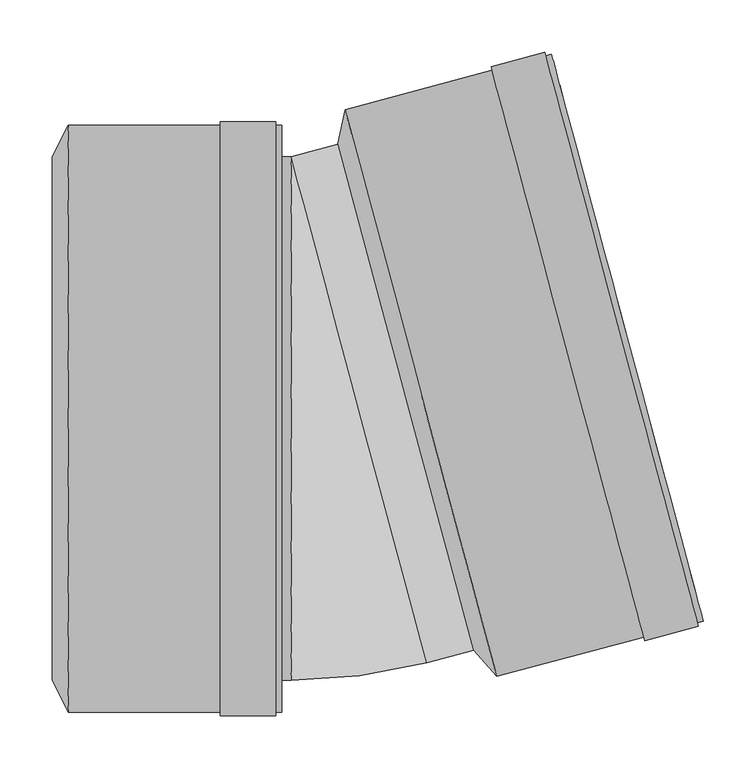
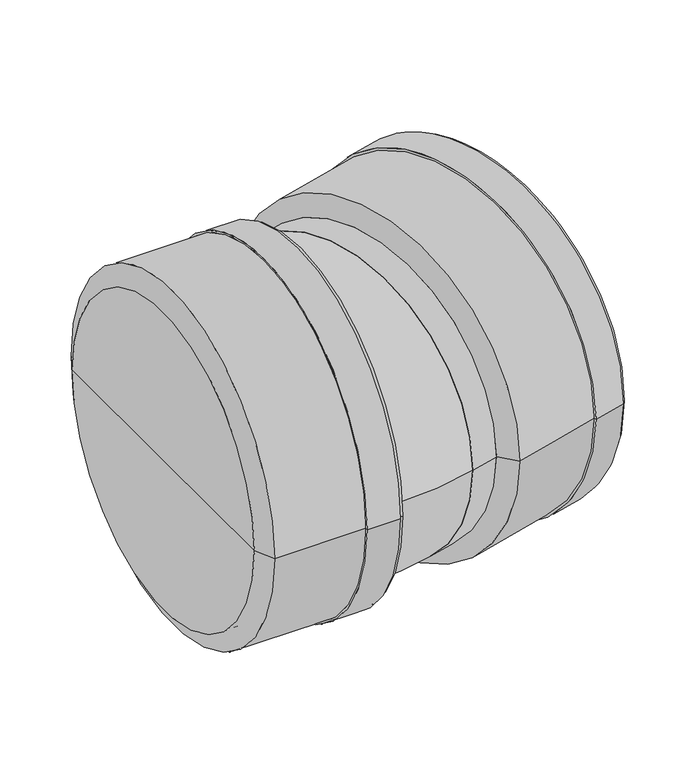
"""IFC4 building model written with IfcOpenShell, lengths in millimetres: pipe fitting geometry, pf_KGB : pf_KGB."""

from ifc_helpers import new_model, si_unit, point, frame, origin, origin_2d, place, context, project, spatial, polyline, circle_curve, ellipse_curve, trimmed, segment, composite_curve, outline, extrude, source, transform, mapped, element, save
from ifc_brep_helpers import plane_surface, cylinder_surface, revolved_surface, advanced_brep


def pipe_fitting_9fab9375(model_context):
    return source(origin(), model_context, "Body", "SolidModel", [
        advanced_brep(
        [(141.2060867, -220.9829882, 0.0), (11.7965642, 261.9799249, 0.0), (18.5915909, 294.9624599, 0.0), (163.58202, -246.149188, 0.0), (76.5013254, 20.4984684, 0.0), (360.5342959, -193.3759847, 0.0), (215.5438669, 347.7356632, 0.0), (223.3343201, 318.6612958, 0.0), (352.7438427, -164.3016173, 0.0), (209.9414971, 346.2345127, 0.0), (354.9319261, -194.8771352, 0.0), (209.0615123, 349.5186605, 0.0), (355.8119109, -198.161283, 0.0), (157.9640361, 335.8271331, 0.0), (304.7144347, -211.8528105, 0.0), (158.8440209, 332.5429852, 0.0), (303.8344499, -208.5686626, 0.0), (155.7915667, -217.0748206, 0.0), (26.3820441, 265.8880925, 0.0), (91.0868054, 24.406636, 0.0)],
        [
            (0, 1, circle_curve(frame((76.5013254, 20.4984684, 0.0), z_axis=(0.9659258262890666, 0.25881904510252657, 0.0), x_axis=(-0.2588190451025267, 0.9659258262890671, 0.0)), 250.0)),
            (1, 2),
            (2, 3, circle_curve(frame((91.0868054, 24.406636, 0.0), z_axis=(-0.9659258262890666, -0.25881904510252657, 0.0), x_axis=(-0.2588190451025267, 0.9659258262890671, 0.0)), 280.1)),
            (3, 0),
            (1, 0, circle_curve(frame((76.5013254, 20.4984684, 0.0), z_axis=(0.9659258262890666, 0.25881904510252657, 0.0), x_axis=(-0.2588190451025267, 0.9659258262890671, 0.0)), 250.0)),
            (3, 2, circle_curve(frame((91.0868054, 24.406636, 0.0), z_axis=(-0.9659258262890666, -0.25881904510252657, 0.0), x_axis=(-0.2588190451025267, 0.9659258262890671, 0.0)), 280.1)),
            (4, 1),
            (0, 4),
            (5, 6, circle_curve(frame((288.0390814, 77.1798392, 0.0), z_axis=(0.9659258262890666, 0.25881904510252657, 0.0), x_axis=(-0.2588190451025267, 0.9659258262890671, 0.0)), 280.1)),
            (6, 7),
            (7, 8, circle_curve(frame((288.0390814, 77.1798392, 0.0), z_axis=(-0.9659258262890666, -0.25881904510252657, 0.0), x_axis=(-0.2588190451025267, 0.9659258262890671, 0.0)), 250.0)),
            (8, 5),
            (9, 10, circle_curve(frame((282.4367116, 75.6786888, 0.0), z_axis=(0.9659258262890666, 0.25881904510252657, 0.0), x_axis=(-0.2588190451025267, 0.9659258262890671, 0.0)), 280.1)),
            (10, 5),
            (5, 6, circle_curve(frame((288.0390814, 77.1798392, 0.0), z_axis=(-0.9659258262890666, -0.25881904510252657, 0.0), x_axis=(-0.2588190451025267, 0.9659258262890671, 0.0)), 280.1)),
            (6, 9),
            (11, 12, circle_curve(frame((282.4367116, 75.6786888, 0.0), z_axis=(0.9659258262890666, 0.25881904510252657, 0.0), x_axis=(-0.2588190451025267, 0.9659258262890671, 0.0)), 283.5)),
            (12, 10),
            (9, 11),
            (13, 14, circle_curve(frame((231.3392354, 61.9871613, 0.0), z_axis=(0.9659258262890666, 0.25881904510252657, 0.0), x_axis=(-0.2588190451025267, 0.9659258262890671, 0.0)), 283.5)),
            (14, 12),
            (11, 13),
            (15, 16, circle_curve(frame((231.3392354, 61.9871613, 0.0), z_axis=(0.9659258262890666, 0.25881904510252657, 0.0), x_axis=(-0.2588190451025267, 0.9659258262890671, 0.0)), 280.1)),
            (16, 14),
            (13, 15),
            (8, 7, circle_curve(frame((288.0390814, 77.1798392, 0.0), z_axis=(-0.9659258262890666, -0.25881904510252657, 0.0), x_axis=(-0.2588190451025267, 0.9659258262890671, 0.0)), 250.0)),
            (10, 9, circle_curve(frame((282.4367116, 75.6786888, 0.0), z_axis=(0.9659258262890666, 0.25881904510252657, 0.0), x_axis=(-0.2588190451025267, 0.9659258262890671, 0.0)), 280.1)),
            (12, 11, circle_curve(frame((282.4367116, 75.6786888, 0.0), z_axis=(0.9659258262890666, 0.25881904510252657, 0.0), x_axis=(-0.2588190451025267, 0.9659258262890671, 0.0)), 283.5)),
            (14, 13, circle_curve(frame((231.3392354, 61.9871613, 0.0), z_axis=(0.9659258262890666, 0.25881904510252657, 0.0), x_axis=(-0.2588190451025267, 0.9659258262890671, 0.0)), 283.5)),
            (16, 15, circle_curve(frame((231.3392354, 61.9871613, 0.0), z_axis=(0.9659258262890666, 0.25881904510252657, 0.0), x_axis=(-0.2588190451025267, 0.9659258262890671, 0.0)), 280.1)),
            (2, 15),
            (16, 3),
            (17, 18, circle_curve(frame((91.0868054, 24.406636, 0.0), z_axis=(0.9659258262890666, 0.25881904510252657, 0.0), x_axis=(-0.2588190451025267, 0.9659258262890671, 0.0)), 250.0)),
            (18, 19),
            (19, 17),
            (18, 17, circle_curve(frame((91.0868054, 24.406636, 0.0), z_axis=(0.9659258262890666, 0.25881904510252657, 0.0), x_axis=(-0.2588190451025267, 0.9659258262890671, 0.0)), 250.0)),
            (7, 18),
            (17, 8),
        ],
        [
            revolved_surface(polyline([(18.5915909, 294.9624599, 0.0), (11.7965642, 261.9799249, 0.0)]), (76.5013254, 20.4984684, 0.0), (-0.9659258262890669, -0.2588190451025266, 0.0)),
            plane_surface(frame((76.5013254, 20.4984684, 0.0), z_axis=(-0.9659258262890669, -0.2588190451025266, 0.0), x_axis=(-0.2588190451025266, 0.9659258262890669, 0.0))),
            plane_surface(frame((288.0390814, 77.1798392, 0.0), z_axis=(0.9659258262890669, 0.2588190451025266, 0.0), x_axis=(-0.2588190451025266, 0.9659258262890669, 0.0))),
            cylinder_surface(frame((76.5013254, 20.4984684, 0.0), z_axis=(-0.9659258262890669, -0.2588190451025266, 0.0), x_axis=(-0.2588190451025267, 0.9659258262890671, 0.0)), 280.1),
            plane_surface(frame((282.4367116, 75.6786888, 0.0), z_axis=(0.9659258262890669, 0.2588190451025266, 0.0), x_axis=(-0.2588190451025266, 0.9659258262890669, 0.0))),
            cylinder_surface(frame((76.5013254, 20.4984684, 0.0), z_axis=(-0.9659258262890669, -0.2588190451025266, 0.0), x_axis=(-0.2588190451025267, 0.9659258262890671, 0.0)), 283.5),
            plane_surface(frame((231.3392354, 61.9871613, 0.0), z_axis=(-0.9659258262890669, -0.2588190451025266, 0.0), x_axis=(-0.2588190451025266, 0.9659258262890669, 0.0))),
            plane_surface(frame((91.0868054, 24.406636, 0.0), z_axis=(0.9659258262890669, 0.2588190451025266, 0.0), x_axis=(-0.2588190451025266, 0.9659258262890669, 0.0))),
            revolved_surface(polyline([(26.38204408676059, 265.8880925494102, 0.0), (223.33432014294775, 318.66129586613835, 0.0)]), (76.5013254, 20.4984684, 0.0), (-0.9659258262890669, -0.2588190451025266, 0.0)),
        ],
        [
            (0, [[1, 2, 3, 4]]),
            (0, [[5, -4, 6, -2]]),
            (1, [[7, -1, 8]]),
            (1, [[-8, -5, -7]]),
            (2, [[9, 10, 11, 12]]),
            (3, [[13, 14, 15, 16]]),
            (4, [[17, 18, -13, 19]]),
            (5, [[20, 21, -17, 22]]),
            (6, [[23, 24, -20, 25]]),
            (2, [[-15, -12, 26, -10]]),
            (3, [[27, -16, -9, -14]]),
            (4, [[28, -19, -27, -18]]),
            (5, [[29, -22, -28, -21]]),
            (6, [[30, -25, -29, -24]]),
            (3, [[-3, 31, -30, 32]]),
            (3, [[-6, -32, -23, -31]]),
            (7, [[33, 34, 35]]),
            (7, [[36, -35, -34]]),
            (8, [[-11, 37, -33, 38]]),
            (8, [[-26, -38, -36, -37]]),
        ],
    ),
        advanced_brep(
        [(-260.8, -250.0, 0.0), (-260.8, 250.0, 0.0), (-245.7, 280.1, 0.0), (-245.7, -280.1, 0.0), (-260.8, 0.0, 0.0), (-41.8, -280.1, 0.0), (-41.8, 280.1, 0.0), (-41.8, 250.0, 0.0), (-41.8, -250.0, 0.0), (-47.6, 280.1, 0.0), (-47.6, -280.1, 0.0), (-47.6, 283.5, 0.0), (-47.6, -283.5, 0.0), (-100.5, 283.5, 0.0), (-100.5, -283.5, 0.0), (-100.5, 280.1, 0.0), (-100.5, -280.1, 0.0), (-245.7, -250.0, 0.0), (-245.7, 250.0, 0.0), (-245.7, 0.0, 0.0)],
        [
            (0, 1, circle_curve(frame((-260.8, 0.0, 0.0), z_axis=(1.0, 0.0, 0.0), x_axis=(0.0, 1.0, 0.0)), 250.0)),
            (1, 2),
            (2, 3, circle_curve(frame((-245.7, 0.0, 0.0), z_axis=(-1.0, 0.0, 0.0), x_axis=(0.0, 1.0, 0.0)), 280.1)),
            (3, 0),
            (1, 0, circle_curve(frame((-260.8, 0.0, 0.0), z_axis=(1.0, 0.0, 0.0), x_axis=(0.0, 1.0, 0.0)), 250.0)),
            (3, 2, circle_curve(frame((-245.7, 0.0, 0.0), z_axis=(-1.0, 0.0, 0.0), x_axis=(0.0, 1.0, 0.0)), 280.1)),
            (4, 1),
            (0, 4),
            (5, 6, circle_curve(frame((-41.8, 0.0, 0.0), z_axis=(1.0, 0.0, 0.0), x_axis=(0.0, 1.0, 0.0)), 280.1)),
            (6, 7),
            (7, 8, circle_curve(frame((-41.8, 0.0, 0.0), z_axis=(-1.0, 0.0, 0.0), x_axis=(0.0, 1.0, 0.0)), 250.0)),
            (8, 5),
            (9, 10, circle_curve(frame((-47.6, 0.0, 0.0), z_axis=(1.0, 0.0, 0.0), x_axis=(0.0, 1.0, 0.0)), 280.1)),
            (10, 5),
            (5, 6, circle_curve(frame((-41.8, 0.0, 0.0), z_axis=(-1.0, 0.0, 0.0), x_axis=(0.0, 1.0, 0.0)), 280.1)),
            (6, 9),
            (11, 12, circle_curve(frame((-47.6, 0.0, 0.0), z_axis=(1.0, 0.0, 0.0), x_axis=(0.0, 1.0, 0.0)), 283.5)),
            (12, 10),
            (9, 11),
            (13, 14, circle_curve(frame((-100.5, 0.0, 0.0), z_axis=(1.0, 0.0, 0.0), x_axis=(0.0, 1.0, 0.0)), 283.5)),
            (14, 12),
            (11, 13),
            (15, 16, circle_curve(frame((-100.5, 0.0, 0.0), z_axis=(1.0, 0.0, 0.0), x_axis=(0.0, 1.0, 0.0)), 280.1)),
            (16, 14),
            (13, 15),
            (8, 7, circle_curve(frame((-41.8, 0.0, 0.0), z_axis=(-1.0, 0.0, 0.0), x_axis=(0.0, 1.0, 0.0)), 250.0)),
            (10, 9, circle_curve(frame((-47.6, 0.0, 0.0), z_axis=(1.0, 0.0, 0.0), x_axis=(0.0, 1.0, 0.0)), 280.1)),
            (12, 11, circle_curve(frame((-47.6, 0.0, 0.0), z_axis=(1.0, 0.0, 0.0), x_axis=(0.0, 1.0, 0.0)), 283.5)),
            (14, 13, circle_curve(frame((-100.5, 0.0, 0.0), z_axis=(1.0, 0.0, 0.0), x_axis=(0.0, 1.0, 0.0)), 283.5)),
            (16, 15, circle_curve(frame((-100.5, 0.0, 0.0), z_axis=(1.0, 0.0, 0.0), x_axis=(0.0, 1.0, 0.0)), 280.1)),
            (2, 15),
            (16, 3),
            (17, 18, circle_curve(frame((-245.7, 0.0, 0.0), z_axis=(1.0, 0.0, 0.0), x_axis=(0.0, 1.0, 0.0)), 250.0)),
            (18, 19),
            (19, 17),
            (18, 17, circle_curve(frame((-245.7, 0.0, 0.0), z_axis=(1.0, 0.0, 0.0), x_axis=(0.0, 1.0, 0.0)), 250.0)),
            (7, 18),
            (17, 8),
        ],
        [
            revolved_surface(polyline([(-245.7, 280.1, 0.0), (-260.8, 250.0, 0.0)]), (-260.8, 0.0, 0.0), (-1.0, 0.0, 0.0)),
            plane_surface(frame((-260.8, 0.0, 0.0), z_axis=(-1.0, 0.0, 0.0), x_axis=(0.0, 1.0, 0.0))),
            plane_surface(frame((-41.8, 0.0, 0.0), z_axis=(1.0, 0.0, 0.0), x_axis=(0.0, 1.0, 0.0))),
            cylinder_surface(frame((-260.8, 0.0, 0.0), z_axis=(-1.0, 0.0, 0.0), x_axis=(0.0, 1.0, 0.0)), 280.1),
            plane_surface(frame((-47.6, 0.0, 0.0), z_axis=(1.0, 0.0, 0.0), x_axis=(0.0, 1.0, 0.0))),
            cylinder_surface(frame((-260.8, 0.0, 0.0), z_axis=(-1.0, 0.0, 0.0), x_axis=(0.0, 1.0, 0.0)), 283.5),
            plane_surface(frame((-100.5, 0.0, 0.0), z_axis=(-1.0, 0.0, 0.0), x_axis=(0.0, 1.0, 0.0))),
            plane_surface(frame((-245.7, 0.0, 0.0), z_axis=(1.0, 0.0, 0.0), x_axis=(0.0, 1.0, 0.0))),
            revolved_surface(polyline([(-245.7, 250.0, 0.0), (-41.80000000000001, 250.0, 0.0)]), (-260.8, 0.0, 0.0), (-1.0, 0.0, 0.0)),
        ],
        [
            (0, [[1, 2, 3, 4]]),
            (0, [[5, -4, 6, -2]]),
            (1, [[7, -1, 8]]),
            (1, [[-8, -5, -7]]),
            (2, [[9, 10, 11, 12]]),
            (3, [[13, 14, 15, 16]]),
            (4, [[17, 18, -13, 19]]),
            (5, [[20, 21, -17, 22]]),
            (6, [[23, 24, -20, 25]]),
            (2, [[-15, -12, 26, -10]]),
            (3, [[27, -16, -9, -14]]),
            (4, [[28, -19, -27, -18]]),
            (5, [[29, -22, -28, -21]]),
            (6, [[30, -25, -29, -24]]),
            (3, [[-3, 31, -30, 32]]),
            (3, [[-6, -32, -23, -31]]),
            (7, [[33, 34, 35]]),
            (7, [[36, -35, -34]]),
            (8, [[-11, 37, -33, 38]]),
            (8, [[-26, -38, -36, -37]]),
        ],
    ),
        extrude(outline(composite_curve([segment(trimmed(circle_curve(origin_2d(), 250.0), [point((0.0, -250.0))], [point((0.0, 249.9999999))], False, "CARTESIAN"), True, "CONTINUOUS"), segment(trimmed(circle_curve(origin_2d(), 250.0), [point((0.0, 249.9999999))], [point((0.0, -250.0))], False, "CARTESIAN"), True, "CONTINUOUS")], self_intersect=False)), frame((31.7916369, 8.5185434, 0.0), z_axis=(0.9659258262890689, 0.2588190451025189, 0.0), x_axis=(0.0, 0.0, 1.0)), (0.0, 0.0, 1.0), 46.2868756),
        extrude(outline(composite_curve([segment(trimmed(circle_curve(origin_2d(), 250.0), [point((-250.0, 0.0))], [point((250.0, 0.0))], False, "CARTESIAN"), True, "CONTINUOUS"), segment(trimmed(circle_curve(origin_2d(), 250.0), [point((250.0, 0.0))], [point((-250.0, 0.0))], False, "CARTESIAN"), True, "CONTINUOUS")], self_intersect=False)), frame((-245.7, 0.0, 0.0), z_axis=(1.0, 0.0, 0.0), x_axis=(0.0, 1.0, 0.0)), (0.0, 0.0, 1.0), 212.7868756),
        advanced_brep(
        [(-32.9131244, -250.0, 0.0), (-32.9131244, 250.0, 0.0), (96.4963982, -232.9629131, 0.0)],
        [
            (0, 1, circle_curve(frame((-32.9131244, 0.0, 0.0), z_axis=(-1.0, 0.0, 0.0), x_axis=(0.0, 1.0, 0.0)), 250.0)),
            (1, 0, circle_curve(frame((-32.9131244, 0.0, 0.0), z_axis=(-1.0, 0.0, 0.0), x_axis=(0.0, 1.0, 0.0)), 250.0)),
            (2, 1, circle_curve(frame((31.7916369, 8.5185434, 0.0), z_axis=(0.9659258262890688, 0.25881904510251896, 0.0), x_axis=(-0.25881904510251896, 0.9659258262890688, 0.0)), 250.0)),
            (1, 2, circle_curve(frame((31.7916369, 8.5185434, 0.0), z_axis=(0.9659258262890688, 0.25881904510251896, 0.0), x_axis=(-0.25881904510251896, 0.9659258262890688, 0.0)), 250.0)),
            (2, 0, circle_curve(frame((-32.9131244, 250.0, 0.0), z_axis=(0.0, 0.0, -1.0), x_axis=(0.0, -1.0, 0.0)), 500.0)),
        ],
        [
            plane_surface(frame((-32.9131244, 250.0, -14.8), z_axis=(-1.0, 0.0, 0.0), x_axis=(0.0, -1.0, 0.0))),
            plane_surface(frame((-32.9131244, 250.0, -14.8), z_axis=(0.9659258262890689, 0.258819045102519, 0.0), x_axis=(0.258819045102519, -0.9659258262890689, 0.0))),
            revolved_surface(trimmed(ellipse_curve(frame((-32.9131244, 0.0, 0.0), z_axis=(1.0, 0.0, 0.0), x_axis=(0.0, 1.0, 0.0)), 250.0, 250.0), [point((-32.9131244, -250.0, 0.0))], [point((-32.9131244, 250.0, 0.0))], True, "CARTESIAN"), (-32.9131244, 250.0, -14.8), (0.0, 0.0, -1.0)),
            revolved_surface(trimmed(ellipse_curve(frame((-32.9131244, 0.0, 0.0), z_axis=(1.0, 0.0, 0.0), x_axis=(0.0, 1.0, 0.0)), 250.0, 250.0), [point((-32.9131244, 250.0, 0.0))], [point((-32.9131244, -250.0, 0.0))], True, "CARTESIAN"), (-32.9131244, 250.0, -14.8), (0.0, 0.0, -1.0)),
        ],
        [
            (0, [[1, 2]]),
            (1, [[3, 4]]),
            (2, [[5, -2, -3]]),
            (3, [[-1, -5, -4]]),
        ],
    ),
    ])


if __name__ == "__main__":
    model = new_model("IFC4")
    model_context = context("Model", 3, world=origin())
    ifc_project = project(units=[si_unit("LENGTHUNIT", "METRE", prefix="MILLI")], contexts=[model_context])
    site = spatial("IfcSite", under=ifc_project)
    building = spatial("IfcBuilding", under=site)
    placement = place(None, origin())
    pipe_fitting_shape = pipe_fitting_9fab9375(model_context)
    element("IfcPipeFitting", 1, ObjectType="pf_KGB : pf_KGB", at=placement, inside=building, context=model_context, shape_type="MappedRepresentation", body=[
        mapped(pipe_fitting_shape, transform((0.0, 0.0, 0.0), x_axis=(1.0, 0.0, 0.0), y_axis=(0.0, 1.0, 0.0), z_axis=(0.0, 0.0, 1.0))),
    ])
    save(model, "model.ifc")
